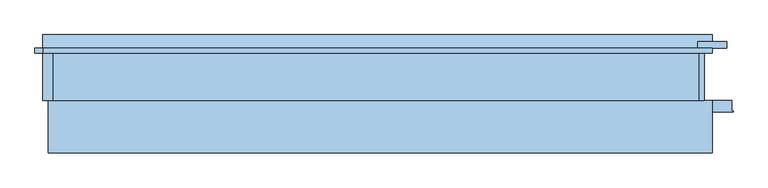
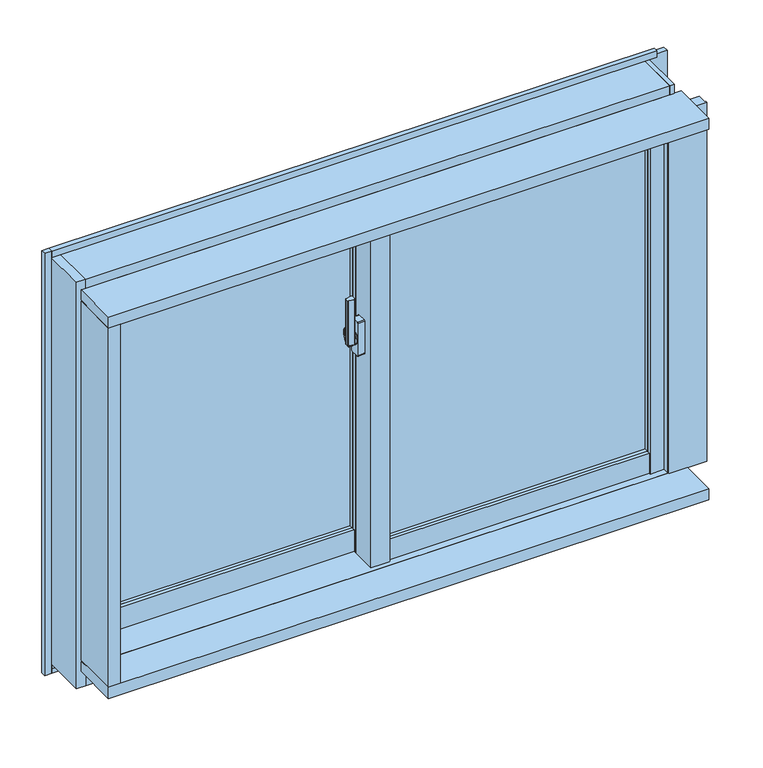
"""IFC4 building model written with IfcOpenShell, lengths in millimetres: window geometry, FNSⅡ100R_非防火_ALC枠_単窓 : 引違."""

from ifc_helpers import new_model, si_unit, point, frame, frame_2d, origin, place, context, project, spatial, polyline, circle_curve, trimmed, segment, composite_curve, outline, extrude, faceted_brep, source, transform, mapped, element, save
from ifc_brep_helpers import plane_surface, cylinder_surface, revolved_surface, advanced_brep


def window_bbf0031b(model_context):
    return source(origin(), model_context, "Body", "SolidModel", [
        extrude(outline(composite_curve([segment(polyline([(-39.0, 14.6), (-39.0, 6.4)]), True, "CONTINUOUS"), segment(trimmed(circle_curve(frame_2d((-41.0, 6.4)), 2.0), [point((-39.0, 6.4))], [point((-41.3606557, 4.4327869))], False, "CARTESIAN"), True, "CONTINUOUS"), segment(polyline([(-41.3606557, 4.4327869), (-52.3606557, 6.4494536)]), True, "CONTINUOUS"), segment(trimmed(circle_curve(frame_2d((-52.0, 8.4166667)), 2.0), [point((-52.3606557, 6.4494536))], [point((-54.0, 8.4166667))], False, "CARTESIAN"), True, "CONTINUOUS"), segment(polyline([(-54.0, 8.4166667), (-54.0, 12.5833333)]), True, "CONTINUOUS"), segment(trimmed(circle_curve(frame_2d((-52.0, 12.5833333)), 2.0), [point((-54.0, 12.5833333))], [point((-52.3606557, 14.5505464))], False, "CARTESIAN"), True, "CONTINUOUS"), segment(polyline([(-52.3606557, 14.5505464), (-41.3606557, 16.5672131)]), True, "CONTINUOUS"), segment(trimmed(circle_curve(frame_2d((-41.0, 14.6)), 2.0), [point((-41.3606557, 16.5672131))], [point((-39.0, 14.6))], False, "CARTESIAN"), True, "CONTINUOUS")], self_intersect=False)), frame((0.0, 0.0, 1390.0), z_axis=(0.0, 0.0, 1.0), x_axis=(1.0, 0.0, 0.0)), (0.0, 0.0, 1.0), 100.0),
        advanced_brep(
        [(-37.5, 18.8234285, 1421.7333311), (-45.5, 18.8234285, 1421.7333311), (-45.5, 18.4351999, 1420.2844424), (-39.0, 18.4351999, 1420.2844424), (-39.0, 16.6234666, 1413.5229616), (-37.5, 16.6234666, 1413.5229616), (-39.0, 16.6466117, 1379.3190372), (-45.5, 16.6466117, 1379.3190372), (-45.5, 16.907084, 1377.8418256), (-37.5, 16.907084, 1377.8418256), (-37.5, 15.4310745, 1386.2126915), (-39.0, 15.4310745, 1386.2126915)],
        [
            (0, 1),
            (1, 2),
            (2, 3),
            (3, 4),
            (4, 5),
            (5, 0),
            (6, 7),
            (7, 8),
            (8, 9),
            (9, 10),
            (10, 11),
            (11, 6),
            (0, 9, circle_curve(frame((-37.5, 13.0, 1400.0), z_axis=(-1.0, 0.0, 0.0), x_axis=(0.0, 0.25881904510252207, 0.965925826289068)), 22.5)),
            (8, 1, circle_curve(frame((-45.5, 13.0, 1400.0), z_axis=(1.0, 0.0, 0.0), x_axis=(0.0, 0.25881904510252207, 0.965925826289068)), 22.5)),
            (7, 2, circle_curve(frame((-45.5, 13.0, 1400.0), z_axis=(1.0, 0.0, 0.0), x_axis=(0.0, 0.25881904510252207, 0.965925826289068)), 21.0)),
            (6, 3, circle_curve(frame((-39.0, 13.0, 1400.0), z_axis=(1.0, 0.0, 0.0), x_axis=(0.0, 0.25881904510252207, 0.965925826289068)), 21.0)),
            (11, 4, circle_curve(frame((-39.0, 13.0, 1400.0), z_axis=(-1.0, 0.0, 0.0), x_axis=(0.0, -1.0, 0.0)), 14.0)),
            (5, 10, circle_curve(frame((-37.5, 13.0, 1400.0), z_axis=(1.0, 0.0, 0.0), x_axis=(0.0, -1.0, 0.0)), 14.0)),
        ],
        [
            plane_surface(frame((-43.5470497, 13.0, 1400.0), z_axis=(0.0, -0.965925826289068, 0.25881904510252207), x_axis=(0.0, 0.25881904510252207, 0.965925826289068))),
            plane_surface(frame((-43.5470497, 13.0, 1400.0), z_axis=(0.0, -0.9848077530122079, -0.17364817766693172), x_axis=(0.0, 0.17364817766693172, -0.9848077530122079))),
            cylinder_surface(frame((-43.5470497, 13.0, 1400.0), z_axis=(-1.0, 0.0, 0.0), x_axis=(0.0, 0.25881904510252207, 0.965925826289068)), 22.5),
            plane_surface(frame((-45.5, 13.0, 1400.0), z_axis=(-1.0, 0.0, 0.0), x_axis=(0.0, 0.25881904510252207, 0.965925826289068))),
            revolved_surface(polyline([(-45.5, 18.435199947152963, 1420.2844423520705), (-39.0, 18.435199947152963, 1420.2844423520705)]), (-43.5470497, 13.0, 1400.0), (-1.0, 0.0, 0.0)),
            plane_surface(frame((-39.0, 13.0, 1400.0), z_axis=(-1.0, 0.0, 0.0), x_axis=(0.0, 0.25881904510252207, 0.965925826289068))),
            plane_surface(frame((-37.5, 13.0, 1400.0), z_axis=(1.0, 0.0, 0.0), x_axis=(0.0, 0.25881904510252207, 0.965925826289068))),
            cylinder_surface(frame((-37.5, 13.0, 1400.0), z_axis=(-1.0, 0.0, 0.0), x_axis=(0.0, -1.0, 0.0)), 14.0),
        ],
        [
            (0, [[1, 2, 3, 4, 5, 6]]),
            (1, [[7, 8, 9, 10, 11, 12]]),
            (2, [[-1, 13, -9, 14]]),
            (3, [[-2, -14, -8, 15]]),
            (4, [[-3, -15, -7, 16]]),
            (5, [[-16, -12, 17, -4]]),
            (6, [[-13, -6, 18, -10]]),
            (7, [[-17, -11, -18, -5]]),
        ],
    ),
        extrude(outline(composite_curve([segment(trimmed(circle_curve(frame_2d((13.0, 1400.0)), 11.5), [point((24.5, 1400.0))], [point((1.5, 1400.0))], False, "CARTESIAN"), True, "CONTINUOUS"), segment(trimmed(circle_curve(frame_2d((13.0, 1400.0)), 11.5), [point((1.5, 1400.0))], [point((24.5, 1400.0))], False, "CARTESIAN"), True, "CONTINUOUS")], self_intersect=False)), frame((-37.5, 0.0, 0.0), z_axis=(1.0, 0.0, 0.0), x_axis=(0.0, 1.0, 0.0)), (0.0, 0.0, 1.0), 2.5),
        extrude(outline(composite_curve([segment(polyline([(4.0, 1437.5), (22.0, 1437.5)]), True, "CONTINUOUS"), segment(trimmed(circle_curve(frame_2d((22.0, 1435.5)), 2.0), [point((22.0, 1437.5))], [point((24.0, 1435.5))], False, "CARTESIAN"), True, "CONTINUOUS"), segment(polyline([(24.0, 1435.5), (24.0, 1364.5)]), True, "CONTINUOUS"), segment(trimmed(circle_curve(frame_2d((22.0, 1364.5)), 2.0), [point((24.0, 1364.5))], [point((22.0, 1362.5))], False, "CARTESIAN"), True, "CONTINUOUS"), segment(polyline([(22.0, 1362.5), (4.0, 1362.5)]), True, "CONTINUOUS"), segment(trimmed(circle_curve(frame_2d((4.0, 1364.5)), 2.0), [point((4.0, 1362.5))], [point((2.0, 1364.5))], False, "CARTESIAN"), True, "CONTINUOUS"), segment(polyline([(2.0, 1364.5), (2.0, 1435.5)]), True, "CONTINUOUS"), segment(trimmed(circle_curve(frame_2d((4.0, 1435.5)), 2.0), [point((2.0, 1435.5))], [point((4.0, 1437.5))], False, "CARTESIAN"), True, "CONTINUOUS")], self_intersect=False)), frame((-35.0, 0.0, 0.0), z_axis=(1.0, 0.0, 0.0), x_axis=(0.0, 1.0, 0.0)), (0.0, 0.0, 1.0), 15.0),
        extrude(outline(polyline([(20.0, 4.0), (568.0, 4.0), (568.0, -2.0), (20.0, -2.0), (20.0, 4.0)])), frame((0.0, 0.0, 948.0), z_axis=(0.0, 0.0, 1.0), x_axis=(1.0, 0.0, 0.0)), (0.0, 0.0, 1.0), 712.0),
        extrude(outline(polyline([(20.0, 22.0), (568.0, 22.0), (568.0, 16.0), (20.0, 16.0), (20.0, 22.0)])), frame((0.0, 0.0, 948.0), z_axis=(0.0, 0.0, 1.0), x_axis=(1.0, 0.0, 0.0)), (0.0, 0.0, 1.0), 712.0),
        extrude(outline(polyline([(-568.0, 62.0), (-20.0, 62.0), (-20.0, 56.0), (-568.0, 56.0), (-568.0, 62.0)])), frame((0.0, 0.0, 948.0), z_axis=(0.0, 0.0, 1.0), x_axis=(1.0, 0.0, 0.0)), (0.0, 0.0, 1.0), 712.0),
        extrude(outline(polyline([(-568.0, 80.0), (-20.0, 80.0), (-20.0, 74.0), (-568.0, 74.0), (-568.0, 80.0)])), frame((0.0, 0.0, 948.0), z_axis=(0.0, 0.0, 1.0), x_axis=(1.0, 0.0, 0.0)), (0.0, 0.0, 1.0), 712.0),
        faceted_brep([(-589.5, 59.0, 1700.0), (-600.0, 59.0, 1700.0), (-600.0, 59.0, 860.0), (-568.0, 59.0, 860.0), (-568.0, 59.0, 900.0), (-589.5, 59.0, 900.0), (-589.5, 46.0, 1700.0), (-589.5, 46.0, 900.0), (-568.0, 46.0, 1700.0), (-568.0, 46.0, 900.0), (-600.0, 88.0, 1700.0), (-568.0, 88.0, 1700.0), (-568.0, 88.0, 860.0), (-600.0, 88.0, 860.0)], [[[0, 1, 2, 3, 4, 5]], [[6, 0, 5, 7]], [[8, 6, 7, 9]], [[10, 11, 12, 13]], [[2, 1, 10, 13]], [[5, 4, 9, 7]], [[1, 0, 6, 8, 11, 10]], [[3, 2, 13, 12]], [[11, 8, 9, 4, 3, 12]]]),
        faceted_brep([(-1.8, 45.5, 1700.0), (-20.0, 45.5, 1700.0), (-20.0, 45.5, 900.0), (-1.8, 45.5, 900.0), (-1.8, 33.1, 1700.0), (-1.8, 33.1, 900.0), (20.0, 33.1, 1700.0), (20.0, 33.1, 900.0), (-20.0, 88.0, 1700.0), (20.0, 88.0, 1700.0), (20.0, 88.0, 860.0), (-20.0, 88.0, 860.0), (-20.0, 59.0, 900.0), (20.0, 59.0, 900.0), (20.0, 59.0, 860.0), (-20.0, 59.0, 860.0)], [[[0, 1, 2, 3]], [[4, 0, 3, 5]], [[6, 4, 5, 7]], [[8, 9, 10, 11]], [[12, 13, 7, 5, 3, 2]], [[1, 0, 4, 6, 9, 8]], [[11, 10, 14, 15]], [[9, 6, 7, 13, 14, 10]], [[1, 8, 11, 15, 12, 2]], [[13, 12, 15, 14]]]),
        extrude(outline(polyline([(-20.0, 33.1), (-15.0, 33.1), (-15.0, -12.0), (15.0, -12.0), (15.0, -8.0), (20.0, -8.0), (20.0, -20.0), (-20.0, -20.0), (-20.0, 33.1)])), frame((0.0, 0.0, 900.0), z_axis=(0.0, 0.0, 1.0), x_axis=(1.0, 0.0, 0.0)), (0.0, 0.0, 1.0), 800.0),
        extrude(outline(polyline([(-15.0, 33.1), (20.0, 33.1), (20.0, -8.0), (15.0, -8.0), (15.0, -12.0), (-15.0, -12.0), (-15.0, 33.1)])), frame((0.0, 0.0, 900.0), z_axis=(0.0, 0.0, 1.0), x_axis=(1.0, 0.0, 0.0)), (0.0, 0.0, 1.0), 800.0),
        extrude(outline(polyline([(568.0, -20.0), (568.0, -12.0), (589.5, -12.0), (589.5, 1.0), (597.0, 1.0), (597.0, -20.0), (568.0, -20.0)])), frame((0.0, 0.0, 903.0), z_axis=(0.0, 0.0, 1.0), x_axis=(1.0, 0.0, 0.0)), (0.0, 0.0, 1.0), 797.0),
        extrude(outline(polyline([(568.0, 30.0), (600.0, 30.0), (600.0, 1.0), (589.5, 1.0), (589.5, -12.0), (568.0, -12.0), (568.0, 30.0)])), frame((0.0, 0.0, 900.0), z_axis=(0.0, 0.0, 1.0), x_axis=(1.0, 0.0, 0.0)), (0.0, 0.0, 1.0), 800.0),
        extrude(outline(polyline([(-1.85, 45.5), (-1.85, 38.0), (-20.0, 38.0), (-20.0, 45.5), (-1.85, 45.5)])), frame((0.0, 0.0, 900.0), z_axis=(0.0, 0.0, 1.0), x_axis=(1.0, 0.0, 0.0)), (0.0, 0.0, 1.0), 800.0),
        extrude(outline(polyline([(-597.0, 59.0), (-589.5, 59.0), (-589.5, 46.0), (-568.0, 46.0), (-568.0, 38.0), (-597.0, 38.0), (-597.0, 59.0)])), frame((0.0, 0.0, 900.0), z_axis=(0.0, 0.0, 1.0), x_axis=(1.0, 0.0, 0.0)), (0.0, 0.0, 1.0), 800.0),
        extrude(outline(polyline([(-18.0, 903.0), (-18.0, 948.0), (-10.0, 948.0), (-10.0, 925.5), (1.0, 925.5), (1.0, 903.0), (-18.0, 903.0)])), frame((20.0, 0.0, 0.0), z_axis=(1.0, 0.0, 0.0), x_axis=(0.0, 1.0, 0.0)), (0.0, 0.0, 1.0), 548.0),
        extrude(outline(polyline([(30.0, 900.0), (1.0, 900.0), (1.0, 925.5), (-10.0, 925.5), (-10.0, 948.0), (30.0, 948.0), (30.0, 900.0)])), frame((20.0, 0.0, 0.0), z_axis=(1.0, 0.0, 0.0), x_axis=(0.0, 1.0, 0.0)), (0.0, 0.0, 1.0), 548.0),
        extrude(outline(polyline([(40.0, 948.0), (48.0, 948.0), (48.0, 925.5), (59.0, 925.5), (59.0, 900.0), (40.0, 900.0), (40.0, 948.0)])), frame((-568.0, 0.0, 0.0), z_axis=(1.0, 0.0, 0.0), x_axis=(0.0, 1.0, 0.0)), (0.0, 0.0, 1.0), 548.0),
        extrude(outline(polyline([(88.0, 860.0), (59.0, 860.0), (59.0, 925.5), (48.0, 925.5), (48.0, 948.0), (88.0, 948.0), (88.0, 860.0)])), frame((-568.0, 0.0, 0.0), z_axis=(1.0, 0.0, 0.0), x_axis=(0.0, 1.0, 0.0)), (0.0, 0.0, 1.0), 548.0),
        extrude(outline(polyline([(3.0, 1680.5), (-10.0, 1680.5), (-10.0, 1660.0), (-18.0, 1660.0), (-18.0, 1700.0), (3.0, 1700.0), (3.0, 1680.5)])), frame((20.0, 0.0, 0.0), z_axis=(1.0, 0.0, 0.0), x_axis=(0.0, 1.0, 0.0)), (0.0, 0.0, 1.0), 548.0),
        extrude(outline(polyline([(30.0, 1700.0), (30.0, 1660.0), (-10.0, 1660.0), (-10.0, 1680.5), (3.0, 1680.5), (3.0, 1700.0), (30.0, 1700.0)])), frame((20.0, 0.0, 0.0), z_axis=(1.0, 0.0, 0.0), x_axis=(0.0, 1.0, 0.0)), (0.0, 0.0, 1.0), 548.0),
        extrude(outline(polyline([(61.0, 1680.5), (48.0, 1680.5), (48.0, 1660.0), (40.0, 1660.0), (40.0, 1700.0), (61.0, 1700.0), (61.0, 1680.5)])), frame((-568.0, 0.0, 0.0), z_axis=(1.0, 0.0, 0.0), x_axis=(0.0, 1.0, 0.0)), (0.0, 0.0, 1.0), 548.0),
        extrude(outline(polyline([(88.0, 1700.0), (88.0, 1660.0), (48.0, 1660.0), (48.0, 1680.5), (61.0, 1680.5), (61.0, 1700.0), (88.0, 1700.0)])), frame((-568.0, 0.0, 0.0), z_axis=(1.0, 0.0, 0.0), x_axis=(0.0, 1.0, 0.0)), (0.0, 0.0, 1.0), 548.0),
        extrude(outline(polyline([(-15.0, 60.3), (-15.0, 11.9), (-600.0, 11.9), (-600.0, 60.3), (-15.0, 60.3)])), frame((0.0, 0.0, 1700.0), z_axis=(0.0, 0.0, 1.0), x_axis=(1.0, 0.0, 0.0)), (0.0, 0.0, 1.0), 25.0),
        faceted_brep([(615.0, 60.3, 1725.0), (615.0, -10.0, 1725.0), (-615.0, -10.0, 1725.0), (-615.0, 60.3, 1725.0), (-15.0, 60.3, 1725.0), (-15.0, 11.9, 1725.0), (600.0, 11.9, 1725.0), (600.0, 60.3, 1725.0), (-615.0, 60.3, 1700.0), (-15.0, 60.3, 1700.0), (615.0, 60.3, 1700.0), (600.0, 60.3, 1700.0), (615.0, 90.0, 1700.0), (600.0, 11.9, 1700.0), (-15.0, 11.9, 1700.0), (-615.0, 90.0, 1700.0), (615.0, 90.0, 1745.0), (-615.0, 90.0, 1745.0), (615.0, -10.0, 1745.0), (-615.0, -10.0, 1745.0)], [[[0, 1, 2, 3, 4, 5, 6, 7]], [[3, 8, 9, 4]], [[10, 0, 7, 11]], [[12, 10, 11, 13, 14, 9, 8, 15]], [[16, 12, 15, 17]], [[18, 16, 17, 19]], [[1, 18, 19, 2]], [[12, 16, 18, 1, 0, 10]], [[15, 8, 3, 2, 19, 17]], [[6, 13, 11, 7]], [[9, 14, 5, 4]], [[13, 6, 5, 14]]]),
        extrude(outline(polyline([(11.9, 1700.0), (-30.0, 1700.0), (-30.0, 1703.0), (-10.0, 1703.0), (-10.0, 1725.0), (11.9, 1725.0), (11.9, 1700.0)])), frame((-600.0, 0.0, 0.0), z_axis=(1.0, 0.0, 0.0), x_axis=(0.0, 1.0, 0.0)), (0.0, 0.0, 1.0), 1200.0),
        faceted_brep([(600.0, -30.0, 900.0), (603.0, -30.0, 900.0), (603.0, -30.0, 1703.0), (600.0, -30.0, 1703.0), (600.0, -5.5, 1720.0), (615.0, -5.5, 1720.0), (615.0, -5.5, 900.0), (600.0, -5.5, 900.0), (600.0, -10.0, 1703.0), (600.0, -10.0, 1720.0), (603.0, -10.0, 1703.0), (615.0, -10.0, 1720.0), (615.0, -10.0, 900.0), (603.0, -10.0, 900.0)], [[[0, 1, 2, 3]], [[4, 5, 6, 7]], [[7, 0, 3, 8, 9, 4]], [[10, 8, 3, 2]], [[9, 11, 5, 4]], [[0, 7, 6, 12, 13, 1]], [[1, 13, 10, 2]], [[9, 8, 10, 13, 12, 11]], [[5, 11, 12, 6]]]),
        faceted_brep([(-615.0, 56.0, 1720.0), (-600.0, 56.0, 1720.0), (-600.0, 56.0, 900.0), (-615.0, 56.0, 900.0), (-615.0, -10.0, 1720.0), (-600.0, -10.0, 1720.0), (-615.0, -10.0, 900.0), (-600.0, -30.0, 900.0), (-603.0, -30.0, 900.0), (-603.0, -10.0, 900.0), (-603.0, -10.0, 1703.0), (-600.0, -10.0, 1703.0), (-603.0, -30.0, 1703.0), (-600.0, -30.0, 1703.0)], [[[0, 1, 2, 3]], [[4, 5, 1, 0]], [[6, 3, 2, 7, 8, 9]], [[6, 9, 10, 11, 5, 4]], [[9, 8, 12, 10]], [[8, 7, 13, 12]], [[7, 2, 1, 5, 11, 13]], [[6, 4, 0, 3]], [[11, 10, 12, 13]]]),
        faceted_brep([(-635.0, 90.0, 840.0), (-615.0, 90.0, 840.0), (-615.0, -10.0, 840.0), (-635.0, -10.0, 840.0), (-615.0, -10.0, 1745.0), (-635.0, -10.0, 1745.0), (-600.0, 90.0, 849.0), (-600.0, 56.0, 849.0), (-615.0, 56.0, 849.0), (-615.0, 90.0, 849.0), (-600.0, 56.0, 1700.0), (-615.0, 56.0, 1700.0), (-635.0, 90.0, 1745.0), (-615.0, 90.0, 1745.0), (-615.0, 90.0, 1700.0), (-600.0, 90.0, 1700.0)], [[[0, 1, 2, 3]], [[4, 5, 3, 2]], [[6, 7, 8, 9]], [[10, 11, 8, 7]], [[12, 5, 4, 13]], [[5, 12, 0, 3]], [[13, 4, 2, 1, 9, 8, 11, 14]], [[12, 13, 14, 15, 6, 9, 1, 0]], [[15, 14, 11, 10]], [[15, 10, 7, 6]]]),
        faceted_brep([(615.0, -10.0, 840.0), (615.0, 90.0, 840.0), (625.0, 90.0, 840.0), (625.0, -10.0, 840.0), (600.0, -5.5, 849.0), (600.0, 90.0, 849.0), (615.0, 90.0, 849.0), (615.0, -5.5, 849.0), (615.0, -10.0, 1745.0), (615.0, 90.0, 1745.0), (615.0, 90.0, 1700.0), (615.0, -5.5, 1700.0), (625.0, -10.0, 1745.0), (625.0, 90.0, 1745.0), (600.0, -5.5, 1700.0), (600.0, 90.0, 1700.0)], [[[0, 1, 2, 3]], [[4, 5, 6, 7]], [[8, 9, 10, 11, 7, 6, 1, 0]], [[8, 12, 13, 9]], [[11, 14, 4, 7]], [[14, 15, 5, 4]], [[14, 11, 10, 15]], [[12, 8, 0, 3]], [[13, 12, 3, 2]], [[9, 13, 2, 1, 6, 5, 15, 10]]]),
        faceted_brep([(615.0, 56.0, 849.0), (615.0, 90.0, 849.0), (-615.0, 90.0, 849.0), (-615.0, 56.0, 849.0), (615.0, -10.0, 884.0), (615.0, 56.0, 884.0), (-615.0, 56.0, 884.0), (-615.0, -10.0, 884.0), (600.0, 17.25, 884.0), (600.0, -1.2, 884.0), (-15.0, -1.2, 884.0), (-15.0, 17.25, 884.0), (615.0, 90.0, 840.0), (615.0, -10.0, 840.0), (-615.0, -10.0, 840.0), (-615.0, 90.0, 840.0), (600.0, -1.2, 900.0), (600.0, 17.25, 900.0), (-15.0, -1.2, 900.0), (-15.0, 17.25, 900.0)], [[[0, 1, 2, 3]], [[4, 5, 6, 7], [8, 9, 10, 11]], [[5, 0, 3, 6]], [[12, 13, 14, 15]], [[12, 1, 0, 5, 4, 13]], [[15, 14, 7, 6, 3, 2]], [[13, 4, 7, 14]], [[1, 12, 15, 2]], [[16, 9, 8, 17]], [[18, 19, 11, 10]], [[9, 16, 18, 10]], [[17, 8, 11, 19]], [[16, 17, 19, 18]]]),
        faceted_brep([(-603.0, -10.0, 884.0), (-603.0, -10.0, 897.0), (-603.0, -30.0, 897.0), (-603.0, -30.0, 900.0), (-603.0, -1.2, 900.0), (-603.0, -1.2, 884.0), (603.0, -10.0, 897.0), (603.0, -30.0, 897.0), (603.0, -30.0, 900.0), (603.0, -5.5, 900.0), (600.0, -5.5, 900.0), (600.0, -1.2, 900.0), (-15.0, -1.2, 900.0), (-15.0, 56.0, 900.0), (-600.0, 56.0, 900.0), (-600.0, -1.2, 900.0), (-600.0, -1.2, 884.0), (600.0, -1.2, 884.0), (-15.0, -1.2, 884.0), (603.0, -10.0, 884.0), (603.0, -5.5, 884.0), (-600.0, 56.0, 884.0), (-15.0, 56.0, 884.0), (600.0, -5.5, 884.0)], [[[0, 1, 2, 3, 4, 5]], [[6, 7, 2, 1]], [[7, 8, 3, 2]], [[4, 3, 8, 9, 10, 11, 12, 13, 14, 15]], [[5, 4, 15, 16]], [[11, 17, 18, 12]], [[8, 7, 6, 19, 20, 9]], [[19, 6, 1, 0]], [[0, 5, 16, 21, 22, 18, 17, 23, 20, 19]], [[10, 23, 17, 11]], [[23, 10, 9, 20]], [[13, 12, 18, 22]], [[14, 21, 16, 15]], [[13, 22, 21, 14]]]),
        extrude(outline(polyline([(-110.0, 900.0), (-30.0, 900.0), (-30.0, 897.0), (-10.0, 897.0), (-10.0, 875.0), (-110.0, 875.0), (-110.0, 900.0)])), frame((-625.0, 0.0, 0.0), z_axis=(1.0, 0.0, 0.0), x_axis=(0.0, 1.0, 0.0)), (0.0, 0.0, 1.0), 1265.0),
        extrude(outline(polyline([(-635.0, 80.0), (-635.0, 90.0), (640.0, 90.0), (640.0, 80.0), (-635.0, 80.0)])), frame((0.0, 0.0, 830.0), z_axis=(0.0, 0.0, 1.0), x_axis=(1.0, 0.0, 0.0)), (0.0, 0.0, 1.0), 10.0),
        extrude(outline(polyline([(100.0, 807.0), (100.0, 820.0), (80.0, 820.0), (80.0, 830.0), (90.0, 830.0), (115.0, 825.0), (115.0, 807.0), (100.0, 807.0)])), frame((-635.0, 0.0, 0.0), z_axis=(1.0, 0.0, 0.0), x_axis=(0.0, 1.0, 0.0)), (0.0, 0.0, 1.0), 1275.0),
        extrude(outline(polyline([(-603.0, -10.0), (-603.0, -30.0), (-600.0, -30.0), (-600.0, -110.0), (-625.0, -110.0), (-625.0, -10.0), (-603.0, -10.0)])), frame((0.0, 0.0, 900.0), z_axis=(0.0, 0.0, 1.0), x_axis=(1.0, 0.0, 0.0)), (0.0, 0.0, 1.0), 800.0),
        extrude(outline(polyline([(-650.0, 90.0), (-635.0, 90.0), (-635.0, 80.0), (-650.0, 80.0), (-650.0, 90.0)])), frame((0.0, 0.0, 820.0), z_axis=(0.0, 0.0, 1.0), x_axis=(1.0, 0.0, 0.0)), (0.0, 0.0, 1.0), 940.0),
        extrude(outline(polyline([(603.0, -30.0), (603.0, -10.0), (677.0, -10.0), (677.0, -30.0), (680.0, -30.0), (680.0, -32.5), (600.0, -32.5), (600.0, -30.0), (603.0, -30.0)])), frame((0.0, 0.0, 900.0), z_axis=(0.0, 0.0, 1.0), x_axis=(1.0, 0.0, 0.0)), (0.0, 0.0, 1.0), 800.0),
        extrude(outline(polyline([(667.5, 90.0), (612.5, 90.0), (612.5, 102.0), (667.5, 102.0), (667.5, 90.0)])), frame((0.0, 0.0, 840.0), z_axis=(0.0, 0.0, 1.0), x_axis=(1.0, 0.0, 0.0)), (0.0, 0.0, 1.0), 905.0),
        extrude(outline(polyline([(-110.0, 1725.0), (-10.0, 1725.0), (-10.0, 1703.0), (-30.0, 1703.0), (-30.0, 1700.0), (-110.0, 1700.0), (-110.0, 1725.0)])), frame((-625.0, 0.0, 0.0), z_axis=(1.0, 0.0, 0.0), x_axis=(0.0, 1.0, 0.0)), (0.0, 0.0, 1.0), 1265.0),
        extrude(outline(polyline([(-635.0, 80.0), (-635.0, 90.0), (640.0, 90.0), (640.0, 80.0), (-635.0, 80.0)])), frame((0.0, 0.0, 1745.0), z_axis=(0.0, 0.0, 1.0), x_axis=(1.0, 0.0, 0.0)), (0.0, 0.0, 1.0), 15.0),
    ])


if __name__ == "__main__":
    model = new_model("IFC4")
    model_context = context("Model", 3, world=origin())
    ifc_project = project(units=[si_unit("LENGTHUNIT", "METRE", prefix="MILLI")], contexts=[model_context])
    site = spatial("IfcSite", under=ifc_project)
    building = spatial("IfcBuilding", under=site)
    placement = place(None, origin())
    window_shape = window_bbf0031b(model_context)
    element("IfcWindow", 1, ObjectType="FNSⅡ100R_非防火_ALC枠_単窓 : 引違", at=placement, inside=building, context=model_context, shape_type="MappedRepresentation", body=[
        mapped(window_shape, transform((0.0, 0.0, 0.0), x_axis=(1.0, 0.0, 0.0), y_axis=(0.0, 1.0, 0.0), z_axis=(0.0, 0.0, 1.0))),
    ])
    save(model, "model.ifc")
